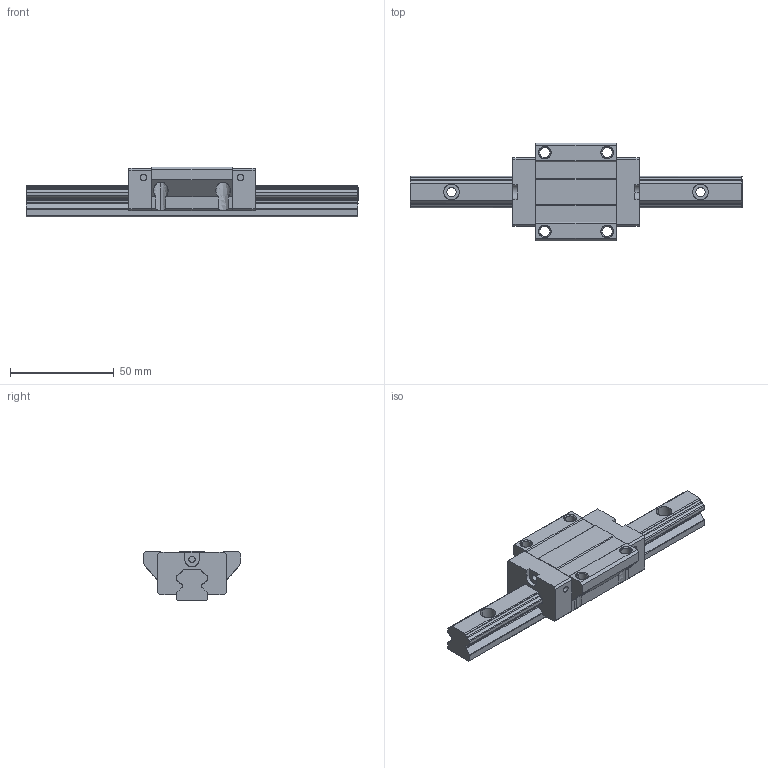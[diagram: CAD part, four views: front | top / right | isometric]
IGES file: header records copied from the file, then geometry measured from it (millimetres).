
Start section: Comment
Global section: file name: SBG15_FL.igs; native system:  By Spatial Corp.; preprocessor: XPlus GENERIC/IGES 3.0; author: Author; organization: Title; date: 20070416.180521; units: inch
Bounding box: 160 x 47 x 24 mm (x, y, z)
Surface area: 24068 mm2 (no closed solid volume)
Topology: 0 solids, 0 shells, 258 faces, 1446 edges, 1446 vertices
Faces by surface type: bspline 258
